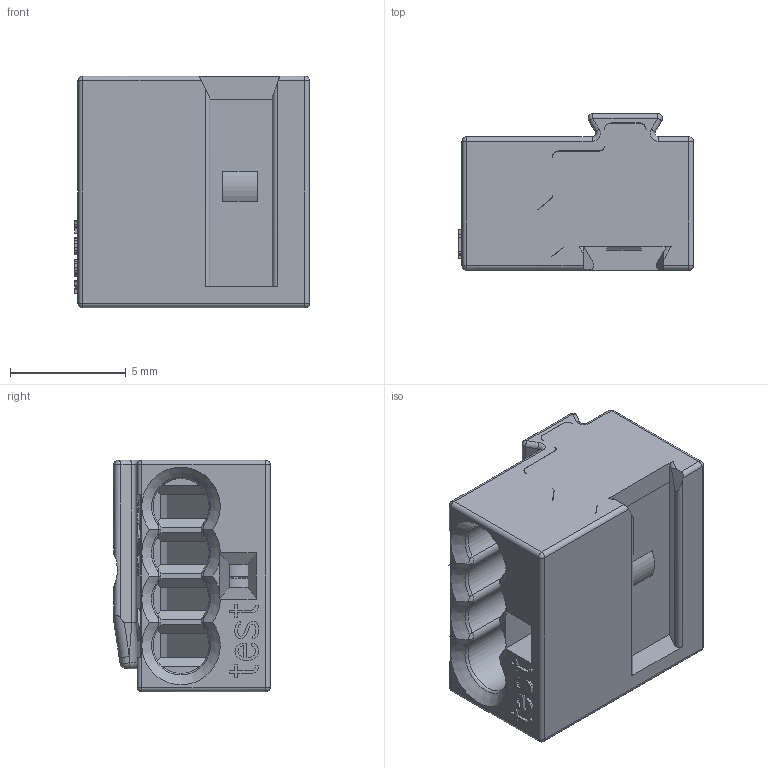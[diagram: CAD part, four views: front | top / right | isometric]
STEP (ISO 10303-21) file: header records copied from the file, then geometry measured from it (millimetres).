
FILE_DESCRIPTION((''),'2;1');
FILE_NAME('NS0100X10000G','2021-05-22T',('guoxue_sz'),(''),'CREO PARAMETRIC BY PTC INC, 2016260','CREO PARAMETRIC BY PTC INC, 2016260','');
FILE_SCHEMA(('CONFIG_CONTROL_DESIGN'));
Length unit declared in the file: metre
Products named in the file (1): NS0100X10000G
Bounding box: 10.15 x 6.75 x 10 mm (x, y, z)
Volume: 368.7 mm3; surface area: 1124 mm2
Topology: 2 solids, 8 shells, 1094 faces, 3085 edges, 2030 vertices
Faces by surface type: plane 918, cylinder 110, cone 20, bspline 20, sphere 12, torus 10, extrusion 4
Entity records: 36061 total; most frequent: CARTESIAN_POINT 7930, ORIENTED_EDGE 6146, DIRECTION 5314, EDGE_CURVE 3073, VECTOR 2634, LINE 2630, VERTEX_POINT 2031, AXIS2_PLACEMENT_3D 1340
